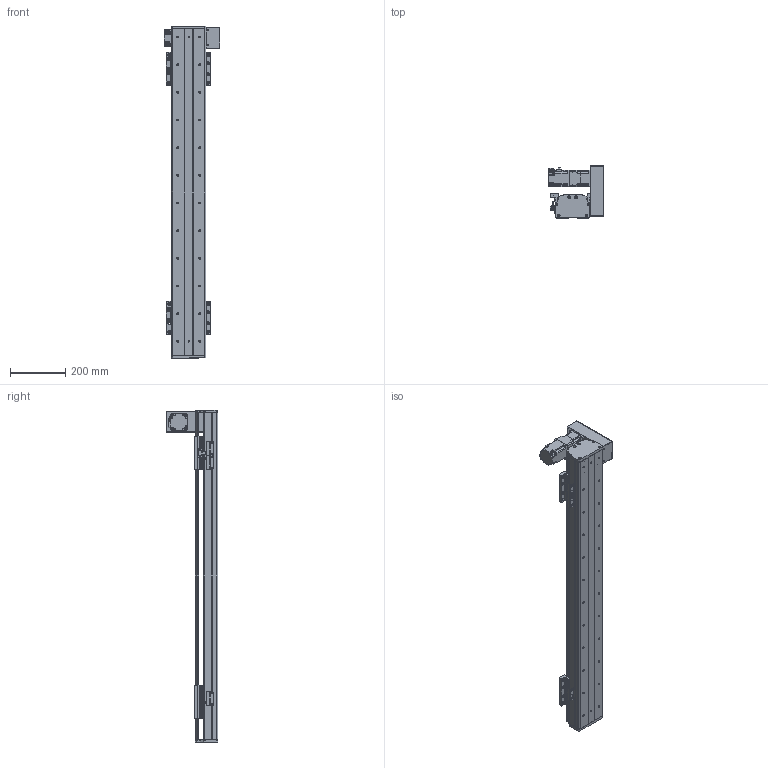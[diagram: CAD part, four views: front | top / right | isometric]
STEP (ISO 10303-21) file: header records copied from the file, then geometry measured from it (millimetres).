
FILE_DESCRIPTION(/* description */ (''),/* implementation_level */ '2;1');
FILE_NAME(/* name */ 'C:\Users\PC\Desktop\3D도면\STEP\DSB125-UR2G-W0900-L.stp',/* time_stamp */ '2018-06-19T16:54:34+09:00',/* author */ ('PC'),/* organization */ (''),/* preprocessor_version */ 'ST-DEVELOPER v16.5',/* originating_system */ 'Autodesk Inventor 2017',/* authorisation */ '');
FILE_SCHEMA (('AUTOMOTIVE_DESIGN { 1 0 10303 214 3 1 1 }'));
Length unit declared in the file: millimetre
Products named in the file (12): DSB125-UL2G-W0900-R_MIR; DSB125-BASE_MIR; DSB125-UP COVER_MIR; DSB125-FRONT COVER_MIR; DSB125-REAR COVER_MIR; hg-kr23__MIR; ab0601-p0401200402_MIR; 13-BELT COVER_MIR; DSR125-SENSOR DOG_MIR; SENSOR BRACKET(EE-SX674A)_MIR; pm-y65_step_MIR; DSB125-TABLE(MSB15S)_MIR
Assembly tree (16 placements, depth 2):
  DSB125-UL2G-W0900-R_MIR
    DSB125-BASE_MIR
    DSB125-UP COVER_MIR
    DSB125-FRONT COVER_MIR
    DSB125-REAR COVER_MIR
    hg-kr23__MIR
    ab0601-p0401200402_MIR
    13-BELT COVER_MIR
    DSR125-SENSOR DOG_MIR
    SENSOR BRACKET(EE-SX674A)_MIR  x3
    pm-y65_step_MIR  x3
    DSB125-TABLE(MSB15S)_MIR  x2
Bounding box: 202.1 x 187 x 1200 mm (x, y, z)
Volume: 4538754.6 mm3; surface area: 1307990.4 mm2
Topology: 17 solids, 17 shells, 1659 faces, 4500 edges, 2966 vertices
Faces by surface type: plane 903, cylinder 630, cone 114, sphere 8, torus 4
Full cylindrical faces by diameter (mm): 2.459 x20, 3.242 x16, 3.5 x6, 4 x1, 4.134 x16, 4.2 x4, 4.3 x1, 4.5 x50, 4.917 x20, 5 x22, 5.3 x1, 5.5 x4, 5.6 x8, 5.8 x4, 5.9 x8, 6 x4, 6.6 x22, 6.647 x24, 7.5 x32, 8.5 x8, 8.7 x1, 11 x22, 14 x1, 16 x2, 17 x1, 20 x1, 47 x1, 50 x3
Entity records: 35969 total; most frequent: CARTESIAN_POINT 6483, DIRECTION 6106, ORIENTED_EDGE 5474, EDGE_CURVE 2737, AXIS2_PLACEMENT_3D 2241, VERTEX_POINT 1946, EDGE_LOOP 1669, LINE 1624
